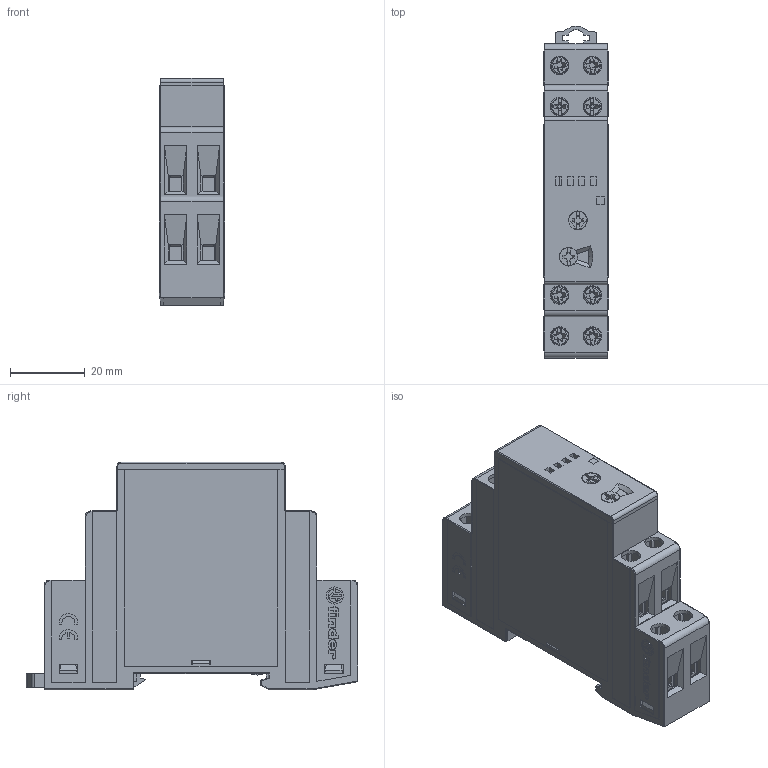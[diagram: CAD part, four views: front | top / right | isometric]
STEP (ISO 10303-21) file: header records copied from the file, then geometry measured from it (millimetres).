
FILE_DESCRIPTION(/* description */ ('Unknown'),/* implementation_level */ '2;1');
FILE_NAME(/* name */ '1361_0_024_0000',/* time_stamp */ '2022-03-23T11:00:16+01:00',/* author */ ('Unknown'),/* organization */ ('Unknown'),/* preprocessor_version */ 'ST-DEVELOPER v16.7',/* originating_system */ 'DEX',/* authorisation */ $);
FILE_SCHEMA (('AUTOMOTIVE_DESIGN {1 0 10303 214 3 1 1}'));
Products named in the file (1): 1361_0_024_0000
Bounding box: 17.5 x 88.85 x 60.8 mm (x, y, z)
Surface area: 21858.2 mm2 (no closed solid volume)
Topology: 0 solids, 59 shells, 1712 faces, 6055 edges, 4267 vertices
Faces by surface type: plane 1446, cylinder 174, bspline 46, torus 32, cone 14
Full cylindrical faces by diameter (mm): 2.3 x1, 2.4 x2, 3 x2, 4.566 x2, 4.6 x8, 5 x9
Entity records: 70513 total; most frequent: CARTESIAN_POINT 14916, ORIENTED_EDGE 9904, DIRECTION 9645, EDGE_CURVE 5974, LINE 5325, VECTOR 5325, VERTEX_POINT 4245, AXIS2_PLACEMENT_3D 2160
